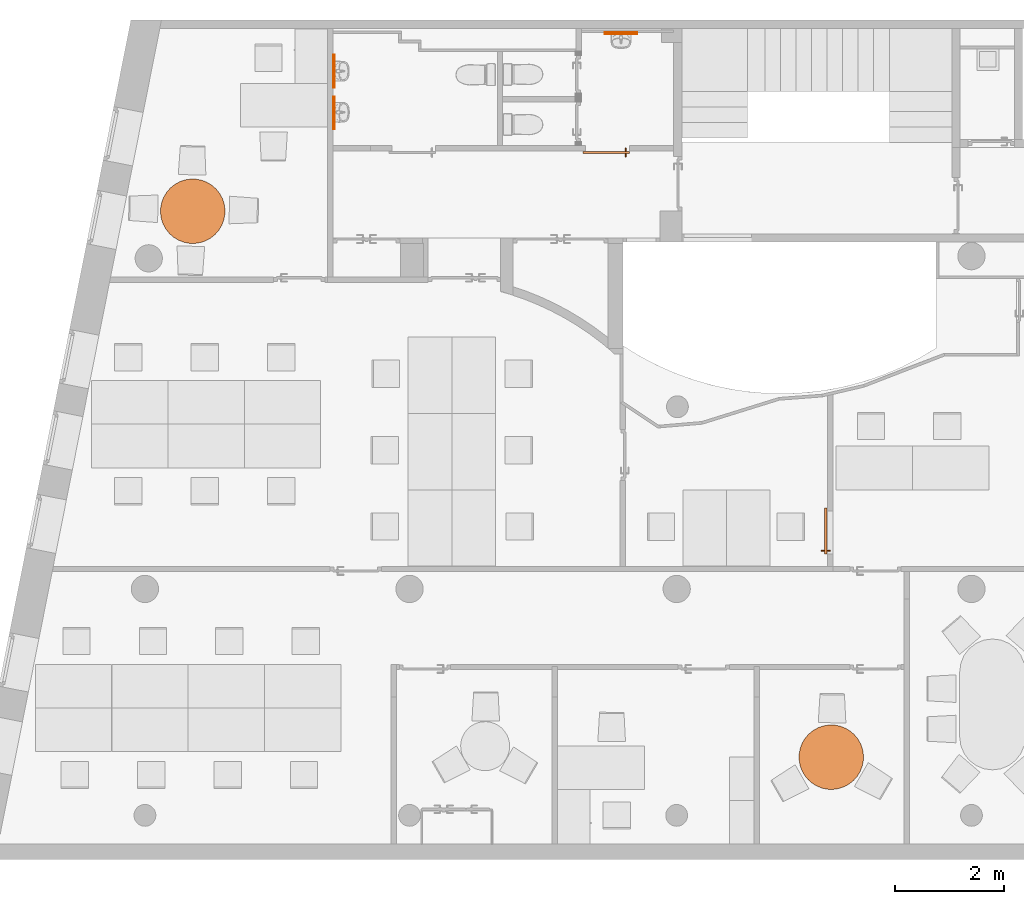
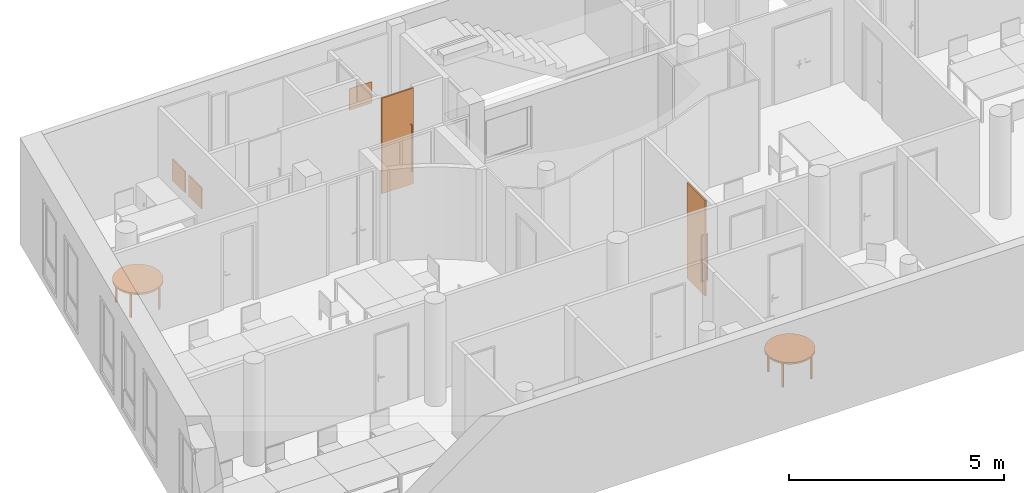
"""IFC4 building model written with IfcOpenShell, lengths in metres."""

from ifc_helpers import new_model, entity, si_unit, converted_unit, derived_unit, frame, origin, origin_with_axes, place, context, subcontext, project, spatial, open_shell, faceted_brep, surface_model, source, transform, mapped, element, save


model = new_model("IFC4")

# Units and contexts
model_context = context("Model", 3, precision=1e-05, world=origin())
body_context = subcontext(model_context, "Body", "Model", "MODEL_VIEW")
ifc_project = project(units=[si_unit("LENGTHUNIT", "METRE"), si_unit("AREAUNIT", "SQUARE_METRE"), si_unit("VOLUMEUNIT", "CUBIC_METRE"), si_unit("MASSUNIT", "GRAM", prefix="KILO"), converted_unit("PLANEANGLEUNIT", "DEGREE", entity("IfcPlaneAngleMeasure", 0.0174532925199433), si_unit("PLANEANGLEUNIT", "RADIAN"), dimensions=[0, 0, 0, 0, 0, 0, 0]), derived_unit("THERMALTRANSMITTANCEUNIT", [(si_unit("POWERUNIT", "WATT"), 1), (si_unit("THERMODYNAMICTEMPERATUREUNIT", "KELVIN"), -1), (si_unit("LENGTHUNIT", "METRE"), -2)]), derived_unit("VOLUMETRICFLOWRATEUNIT", [(si_unit("LENGTHUNIT", "METRE"), 3), (converted_unit("TIMEUNIT", "hour", entity("IfcTimeMeasure", 3600.0), si_unit("TIMEUNIT", "SECOND"), dimensions=[0, 0, 1, 0, 0, 0, 0]), -1), (si_unit("LENGTHUNIT", "METRE"), -1)])], contexts=[model_context])

# Building, storeys
building_placement = place(None, origin())
building = spatial("IfcBuilding", under=ifc_project, at=building_placement, Name="HABITATGE PLURIFAMILIAR", CompositionType="ELEMENT")
storey_1_placement = place(building_placement, frame((0.0, 0.0, 9.26)))
storey_1 = spatial("IfcBuildingStorey", under=building, at=storey_1_placement, Name="PLANTA SEGONA", CompositionType="ELEMENT", Elevation=9.26)
storey_2_placement = place(storey_1_placement, frame((0.0, 0.0, 6.25)))
storey_2 = spatial("IfcBuildingStorey", under=storey_1, at=storey_2_placement, Name="NOU", CompositionType="PARTIAL")

# Proxies
shared_shape_1 = source(origin_with_axes(), body_context, "Body", "SurfaceModel", [
    surface_model("IfcShellBasedSurfaceModel", [(0.6, 0.01, 0.6), (0.6, 0.01, 0.0), (0.0, 0.01, 0.0), (0.0, 0.01, 0.6), (0.0, 0.03, 0.0), (0.0, 0.03, 0.6), (0.6, 0.03, 0.0), (0.6, 0.03, 0.6)], [open_shell([[[0, 1, 2, 3]], [[3, 2, 4, 5]], [[5, 4, 6, 7]], [[7, 6, 1, 0]]], orient=[[False], [False], [False], [False]])]),
    surface_model("IfcShellBasedSurfaceModel", [(0.0, 0.0, 0.0), (0.6, 0.0, 0.0), (0.6, 0.01, 0.0), (0.0, 0.01, 0.0), (0.0, 0.0, 0.6), (0.6, 0.0, 0.6), (0.6, 0.01, 0.6), (0.0, 0.01, 0.6)], [open_shell([[[0, 1, 2, 3]], [[0, 4, 5, 1]], [[1, 5, 6, 2]], [[2, 6, 7, 3]], [[3, 7, 4, 0]]], orient=[[False], [False], [False], [False], [False]])]),
])
proxy_placement = place(storey_2_placement, frame((409.414317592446, 27.9712997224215, -5.45)))
element("IfcBuildingElementProxy", 1, at=proxy_placement, inside=storey_2, Name="Mirall P2", context=body_context, shape_type="MappedRepresentation", body=[
    mapped(shared_shape_1, transform((0.0, 0.0, 0.0), x_axis=(1.0, 0.0, 0.0), y_axis=(0.0, 1.0, 0.0), z_axis=(0.0, 0.0, 1.0), scale=1.0)),
])
for number, where, z_axis, x_axis, name in (
    (2, (404.466984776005, 26.9905155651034, -5.45), (0.0, 0.0, 1.0), (1.22464679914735e-16, 1.0, 0.0), "Mirall P2"),
    (3, (404.468308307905, 26.2238560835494, -5.45), (0.0, 0.0, 1.0), (1.22464679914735e-16, 1.0, 0.0), "Mirall P2"),
):
    element("IfcBuildingElementProxy", number, at=place(storey_2_placement, frame(where, z_axis=z_axis, x_axis=x_axis)), inside=storey_2, Name=name, context=body_context, shape_type="MappedRepresentation", body=[
        mapped(shared_shape_1, transform((0.0, 0.0, 0.0), x_axis=(1.0, 0.0, 0.0), y_axis=(0.0, 1.0, 0.0), z_axis=(0.0, 0.0, 1.0), scale=1.0)),
    ])
shared_shape_2 = source(origin_with_axes(), body_context, "Body", "Brep", [
    faceted_brep([(0.0, 0.11, 2.71), (0.0, 0.11, 0.0), (0.845770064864, 0.11, 0.0), (0.845770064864, 0.11, 2.71), (0.0, 0.0699999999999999, 0.0), (0.0, 0.0700000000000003, 2.71), (0.845770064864, 0.0700000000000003, 2.71), (0.845770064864, 0.0699999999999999, 0.0)], [[[0, 1, 2, 3]], [[4, 5, 6, 7]], [[1, 0, 5, 4]], [[2, 1, 4, 7]], [[3, 2, 7, 6]], [[0, 3, 6, 5]]], orient=[[False], [False], [False], [False], [False], [False]]),
    faceted_brep([(0.08, 0.0700000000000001, 1.7), (0.0779903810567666, 0.0700000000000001, 1.7075), (0.0725, 0.0700000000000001, 1.71299038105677), (0.065, 0.0700000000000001, 1.715), (0.0575, 0.0700000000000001, 1.71299038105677), (0.0520096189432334, 0.0700000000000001, 1.7075), (0.05, 0.0700000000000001, 1.7), (0.0520096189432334, 0.0700000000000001, 1.6925), (0.0575, 0.0700000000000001, 1.68700961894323), (0.065, 0.0700000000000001, 1.685), (0.0725, 0.0700000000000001, 1.68700961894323), (0.0779903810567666, 0.0700000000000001, 1.6925), (0.08, 0.0150000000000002, 1.7), (0.0779903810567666, 0.00750000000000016, 1.7075), (0.0725, 0.00200961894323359, 1.71299038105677), (0.065, 0.0, 1.715), (0.0575, 0.00200961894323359, 1.71299038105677), (0.0520096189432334, 0.00750000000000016, 1.7075), (0.05, 0.0150000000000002, 1.7), (0.0520096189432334, 0.0225000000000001, 1.6925), (0.0575, 0.0279903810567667, 1.68700961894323), (0.065, 0.0300000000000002, 1.685), (0.0725, 0.0279903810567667, 1.68700961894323), (0.0779903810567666, 0.0225000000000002, 1.6925), (0.08, 0.015, 0.4), (0.0779903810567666, 0.00749999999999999, 0.3925), (0.0725, 0.00200961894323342, 0.387009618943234), (0.065, 0.0, 0.385), (0.0575, 0.00200961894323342, 0.387009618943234), (0.0520096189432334, 0.00749999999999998, 0.3925), (0.05, 0.015, 0.4), (0.0520096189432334, 0.0225, 0.4075), (0.0575, 0.0279903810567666, 0.412990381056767), (0.065, 0.03, 0.415), (0.0725, 0.0279903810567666, 0.412990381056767), (0.0779903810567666, 0.0225, 0.4075), (0.0800000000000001, 0.07, 0.4), (0.0779903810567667, 0.07, 0.4075), (0.0725000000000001, 0.07, 0.412990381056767), (0.0650000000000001, 0.07, 0.415), (0.0575000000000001, 0.07, 0.412990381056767), (0.0520096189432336, 0.07, 0.4075), (0.0500000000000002, 0.07, 0.4), (0.0520096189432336, 0.07, 0.3925), (0.0575000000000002, 0.07, 0.387009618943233), (0.0650000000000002, 0.07, 0.385), (0.0725000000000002, 0.07, 0.387009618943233), (0.0779903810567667, 0.07, 0.3925)], [[[0, 1, 2, 3, 4, 5, 6, 7, 8, 9, 10, 11]], [[0, 12, 13, 1]], [[1, 13, 14, 2]], [[2, 14, 15, 3]], [[3, 15, 16, 4]], [[4, 16, 17, 5]], [[5, 17, 18, 6]], [[6, 18, 19, 7]], [[7, 19, 20, 8]], [[8, 20, 21, 9]], [[9, 21, 22, 10]], [[10, 22, 23, 11]], [[11, 23, 12, 0]], [[12, 24, 25, 13]], [[13, 25, 26, 14]], [[14, 26, 27, 15]], [[15, 27, 28, 16]], [[16, 28, 29, 17]], [[17, 29, 30, 18]], [[18, 30, 31, 19]], [[19, 31, 32, 20]], [[20, 32, 33, 21]], [[21, 33, 34, 22]], [[22, 34, 35, 23]], [[23, 35, 24, 12]], [[36, 37, 38, 39, 40, 41, 42, 43, 44, 45, 46, 47]], [[24, 36, 47, 25]], [[25, 47, 46, 26]], [[26, 46, 45, 27]], [[27, 45, 44, 28]], [[28, 44, 43, 29]], [[29, 43, 42, 30]], [[30, 42, 41, 31]], [[31, 41, 40, 32]], [[32, 40, 39, 33]], [[33, 39, 38, 34]], [[34, 38, 37, 35]], [[35, 37, 36, 24]]], orient=[[False], [False], [False], [False], [False], [False], [False], [False], [False], [False], [False], [False], [False], [False], [False], [False], [False], [False], [False], [False], [False], [False], [False], [False], [False], [False], [False], [False], [False], [False], [False], [False], [False], [False], [False], [False], [False], [False]]),
    faceted_brep([(0.08, 0.11, 1.7), (0.0779903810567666, 0.11, 1.6925), (0.0725, 0.11, 1.68700961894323), (0.065, 0.11, 1.685), (0.0575, 0.11, 1.68700961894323), (0.0520096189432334, 0.11, 1.6925), (0.05, 0.11, 1.7), (0.0520096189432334, 0.11, 1.7075), (0.0575, 0.11, 1.71299038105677), (0.065, 0.11, 1.715), (0.0725, 0.11, 1.71299038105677), (0.0779903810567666, 0.11, 1.7075), (0.0779903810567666, 0.1725, 1.7075), (0.08, 0.165, 1.7), (0.0725, 0.177990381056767, 1.71299038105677), (0.065, 0.18, 1.715), (0.0575, 0.177990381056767, 1.71299038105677), (0.0520096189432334, 0.1725, 1.7075), (0.05, 0.165, 1.7), (0.0520096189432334, 0.1575, 1.6925), (0.0575, 0.152009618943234, 1.68700961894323), (0.065, 0.15, 1.685), (0.0725, 0.152009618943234, 1.68700961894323), (0.0779903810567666, 0.1575, 1.6925), (0.0779903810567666, 0.1725, 0.3925), (0.08, 0.165, 0.4), (0.0725, 0.177990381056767, 0.387009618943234), (0.065, 0.18, 0.385), (0.0575, 0.177990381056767, 0.387009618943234), (0.0520096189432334, 0.1725, 0.3925), (0.05, 0.165, 0.4), (0.0520096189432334, 0.1575, 0.4075), (0.0575, 0.152009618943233, 0.412990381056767), (0.065, 0.15, 0.415), (0.0725, 0.152009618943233, 0.412990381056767), (0.0779903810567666, 0.1575, 0.4075), (0.0800000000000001, 0.11, 0.4), (0.0779903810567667, 0.11, 0.3925), (0.0725000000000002, 0.11, 0.387009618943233), (0.0650000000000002, 0.11, 0.385), (0.0575000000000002, 0.11, 0.387009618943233), (0.0520096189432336, 0.11, 0.3925), (0.0500000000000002, 0.11, 0.4), (0.0520096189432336, 0.11, 0.4075), (0.0575000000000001, 0.11, 0.412990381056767), (0.0650000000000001, 0.11, 0.415), (0.0725000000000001, 0.11, 0.412990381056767), (0.0779903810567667, 0.11, 0.4075)], [[[0, 1, 2, 3, 4, 5, 6, 7, 8, 9, 10, 11]], [[0, 11, 12, 13]], [[11, 10, 14, 12]], [[10, 9, 15, 14]], [[9, 8, 16, 15]], [[8, 7, 17, 16]], [[7, 6, 18, 17]], [[6, 5, 19, 18]], [[5, 4, 20, 19]], [[4, 3, 21, 20]], [[3, 2, 22, 21]], [[2, 1, 23, 22]], [[1, 0, 13, 23]], [[13, 12, 24, 25]], [[12, 14, 26, 24]], [[14, 15, 27, 26]], [[15, 16, 28, 27]], [[16, 17, 29, 28]], [[17, 18, 30, 29]], [[18, 19, 31, 30]], [[19, 20, 32, 31]], [[20, 21, 33, 32]], [[21, 22, 34, 33]], [[22, 23, 35, 34]], [[23, 13, 25, 35]], [[36, 37, 38, 39, 40, 41, 42, 43, 44, 45, 46, 47]], [[25, 24, 37, 36]], [[24, 26, 38, 37]], [[26, 27, 39, 38]], [[27, 28, 40, 39]], [[28, 29, 41, 40]], [[29, 30, 42, 41]], [[30, 31, 43, 42]], [[31, 32, 44, 43]], [[32, 33, 45, 44]], [[33, 34, 46, 45]], [[34, 35, 47, 46]], [[35, 25, 36, 47]]], orient=[[False], [False], [False], [False], [False], [False], [False], [False], [False], [False], [False], [False], [False], [False], [False], [False], [False], [False], [False], [False], [False], [False], [False], [False], [False], [False], [False], [False], [False], [False], [False], [False], [False], [False], [False], [False], [False], [False]]),
])
for number, where, z_axis, x_axis, name in (
    (4, (409.865355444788, 25.8894598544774, -6.35), (0.0, 0.0, 1.0), (-0.999999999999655, 1.22464679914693e-16, 0.0), "Porta P2"),
    (5, (413.557122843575, 18.4367694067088, -6.35), (0.0, 0.0, 1.0), (-2.46519032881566e-32, 0.999999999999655, 0.0), "Porta P2"),
):
    element("IfcBuildingElementProxy", number, at=place(storey_2_placement, frame(where, z_axis=z_axis, x_axis=x_axis)), inside=storey_2, Name=name, context=body_context, shape_type="MappedRepresentation", body=[
        mapped(shared_shape_2, transform((0.0, 0.0, 0.0), x_axis=(1.0, 0.0, 0.0), y_axis=(0.0, 1.0, 0.0), z_axis=(0.0, 0.0, 1.0), scale=0.999999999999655)),
    ])
shared_shape_3 = source(origin_with_axes(), body_context, "Body", "Brep", [
    faceted_brep([(1.18242155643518, 0.591210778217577, 0.7), (1.17343973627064, 0.693873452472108, 0.7), (1.14676718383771, 0.793416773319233, 0.7), (1.10321433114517, 0.886816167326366, 0.7), (1.04410450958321, 0.971233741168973, 0.7), (0.971233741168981, 1.0441045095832, 0.7), (0.886816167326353, 1.10321433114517, 0.7), (0.793416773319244, 1.14676718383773, 0.7), (0.693873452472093, 1.17343973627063, 0.7), (0.591210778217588, 1.18242155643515, 0.7), (0.488548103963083, 1.17343973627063, 0.7), (0.389004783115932, 1.14676718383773, 0.7), (0.295605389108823, 1.10321433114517, 0.7), (0.211187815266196, 1.0441045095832, 0.7), (0.138317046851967, 0.971233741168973, 0.7), (0.0792072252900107, 0.886816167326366, 0.7), (0.0356543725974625, 0.793416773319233, 0.7), (0.00898182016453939, 0.693873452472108, 0.7), (0.0, 0.591210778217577, 0.7), (0.00898182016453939, 0.488548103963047, 0.7), (0.0356543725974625, 0.389004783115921, 0.7), (0.0792072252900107, 0.295605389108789, 0.7), (0.138317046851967, 0.211187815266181, 0.7), (0.211187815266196, 0.138317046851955, 0.7), (0.295605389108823, 0.079207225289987, 0.7), (0.389004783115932, 0.0356543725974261, 0.7), (0.488548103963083, 0.00898182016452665, 0.7), (0.591210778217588, 0.0, 0.7), (0.693873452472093, 0.00898182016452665, 0.7), (0.793416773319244, 0.0356543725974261, 0.7), (0.886816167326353, 0.079207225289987, 0.7), (0.971233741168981, 0.138317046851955, 0.7), (1.04410450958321, 0.211187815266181, 0.7), (1.10321433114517, 0.295605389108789, 0.7), (1.14676718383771, 0.389004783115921, 0.7), (1.17343973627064, 0.488548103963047, 0.7), (1.18242155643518, 0.591210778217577, 0.75), (1.17343973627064, 0.488548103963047, 0.75), (1.14676718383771, 0.389004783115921, 0.75), (1.10321433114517, 0.295605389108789, 0.75), (1.04410450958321, 0.211187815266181, 0.75), (0.971233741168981, 0.138317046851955, 0.75), (0.886816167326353, 0.079207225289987, 0.75), (0.793416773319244, 0.0356543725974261, 0.75), (0.693873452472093, 0.00898182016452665, 0.75), (0.591210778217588, 0.0, 0.75), (0.488548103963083, 0.00898182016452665, 0.75), (0.389004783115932, 0.0356543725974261, 0.75), (0.295605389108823, 0.079207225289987, 0.75), (0.211187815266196, 0.138317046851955, 0.75), (0.138317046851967, 0.211187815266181, 0.75), (0.0792072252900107, 0.295605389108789, 0.75), (0.0356543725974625, 0.389004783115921, 0.75), (0.00898182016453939, 0.488548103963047, 0.75), (0.0, 0.591210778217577, 0.75), (0.00898182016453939, 0.693873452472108, 0.75), (0.0356543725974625, 0.793416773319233, 0.75), (0.0792072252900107, 0.886816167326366, 0.75), (0.138317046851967, 0.971233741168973, 0.75), (0.211187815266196, 1.0441045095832, 0.75), (0.295605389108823, 1.10321433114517, 0.75), (0.389004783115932, 1.14676718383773, 0.75), (0.488548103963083, 1.17343973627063, 0.75), (0.591210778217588, 1.18242155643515, 0.75), (0.693873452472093, 1.17343973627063, 0.75), (0.793416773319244, 1.14676718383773, 0.75), (0.886816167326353, 1.10321433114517, 0.75), (0.971233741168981, 1.0441045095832, 0.75), (1.04410450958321, 0.971233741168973, 0.75), (1.10321433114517, 0.886816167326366, 0.75), (1.14676718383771, 0.793416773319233, 0.75), (1.17343973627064, 0.693873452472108, 0.75)], [[[0, 1, 2, 3, 4, 5, 6, 7, 8, 9, 10, 11, 12, 13, 14, 15, 16, 17, 18, 19, 20, 21, 22, 23, 24, 25, 26, 27, 28, 29, 30, 31, 32, 33, 34, 35]], [[36, 37, 38, 39, 40, 41, 42, 43, 44, 45, 46, 47, 48, 49, 50, 51, 52, 53, 54, 55, 56, 57, 58, 59, 60, 61, 62, 63, 64, 65, 66, 67, 68, 69, 70, 71]], [[1, 0, 36, 71]], [[2, 1, 71, 70]], [[3, 2, 70, 69]], [[4, 3, 69, 68]], [[5, 4, 68, 67]], [[6, 5, 67, 66]], [[7, 6, 66, 65]], [[8, 7, 65, 64]], [[9, 8, 64, 63]], [[10, 9, 63, 62]], [[11, 10, 62, 61]], [[12, 11, 61, 60]], [[13, 12, 60, 59]], [[14, 13, 59, 58]], [[15, 14, 58, 57]], [[16, 15, 57, 56]], [[17, 16, 56, 55]], [[18, 17, 55, 54]], [[19, 18, 54, 53]], [[20, 19, 53, 52]], [[21, 20, 52, 51]], [[22, 21, 51, 50]], [[23, 22, 50, 49]], [[24, 23, 49, 48]], [[25, 24, 48, 47]], [[26, 25, 47, 46]], [[27, 26, 46, 45]], [[28, 27, 45, 44]], [[29, 28, 44, 43]], [[30, 29, 43, 42]], [[31, 30, 42, 41]], [[32, 31, 41, 40]], [[33, 32, 40, 39]], [[34, 33, 39, 38]], [[35, 34, 38, 37]], [[0, 35, 37, 36]]], orient=[[False], [False], [False], [False], [False], [False], [False], [False], [False], [False], [False], [False], [False], [False], [False], [False], [False], [False], [False], [False], [False], [False], [False], [False], [False], [False], [False], [False], [False], [False], [False], [False], [False], [False], [False], [False], [False], [False]]),
    faceted_brep([(0.577083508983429, 1.13441393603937, 0.0), (0.577083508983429, 1.08441393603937, 0.0), (0.627083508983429, 1.08441393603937, 0.0), (0.627083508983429, 1.13441393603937, 0.0), (0.577083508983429, 1.08441393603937, 0.7), (0.577083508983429, 1.13441393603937, 0.7), (0.627083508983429, 1.13441393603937, 0.7), (0.627083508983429, 1.08441393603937, 0.7)], [[[0, 1, 2, 3]], [[4, 5, 6, 7]], [[1, 0, 5, 4]], [[2, 1, 4, 7]], [[3, 2, 7, 6]], [[0, 3, 6, 5]]], orient=[[False], [False], [False], [False], [False], [False]]),
    faceted_brep([(0.0475495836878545, 0.616210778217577, 0.0), (0.0475495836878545, 0.566210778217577, 0.0), (0.0975495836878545, 0.566210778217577, 0.0), (0.0975495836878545, 0.616210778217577, 0.0), (0.0475495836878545, 0.566210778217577, 0.7), (0.0475495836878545, 0.616210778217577, 0.7), (0.0975495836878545, 0.616210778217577, 0.7), (0.0975495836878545, 0.566210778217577, 0.7)], [[[0, 1, 2, 3]], [[4, 5, 6, 7]], [[1, 0, 5, 4]], [[2, 1, 4, 7]], [[3, 2, 7, 6]], [[0, 3, 6, 5]]], orient=[[False], [False], [False], [False], [False], [False]]),
    faceted_brep([(1.08451421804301, 0.595616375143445, 0.0), (1.08451421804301, 0.545616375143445, 0.0), (1.13451421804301, 0.545616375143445, 0.0), (1.13451421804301, 0.595616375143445, 0.0), (1.08451421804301, 0.545616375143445, 0.7), (1.08451421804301, 0.595616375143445, 0.7), (1.13451421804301, 0.595616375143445, 0.7), (1.13451421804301, 0.545616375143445, 0.7)], [[[0, 1, 2, 3]], [[4, 5, 6, 7]], [[1, 0, 5, 4]], [[2, 1, 4, 7]], [[3, 2, 7, 6]], [[0, 3, 6, 5]]], orient=[[False], [False], [False], [False], [False], [False]]),
    faceted_brep([(0.577083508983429, 0.0976491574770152, 0.0), (0.577083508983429, 0.0476491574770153, 0.0), (0.627083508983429, 0.0476491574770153, 0.0), (0.627083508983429, 0.0976491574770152, 0.0), (0.577083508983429, 0.0476491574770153, 0.7), (0.577083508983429, 0.0976491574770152, 0.7), (0.627083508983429, 0.0976491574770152, 0.7), (0.627083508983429, 0.0476491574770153, 0.7)], [[[0, 1, 2, 3]], [[4, 5, 6, 7]], [[1, 0, 5, 4]], [[2, 1, 4, 7]], [[3, 2, 7, 6]], [[0, 3, 6, 5]]], orient=[[False], [False], [False], [False], [False], [False]]),
])
for number, where, z_axis, x_axis, name in (
    (6, (401.877692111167, 25.5590133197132, -6.3499999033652), (0.0, 0.0, 1.0), (-0.719093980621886, -0.694912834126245, 0.0), "Taula redona 1.2m"),
    (7, (413.581362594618, 15.5517815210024, -6.3499999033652), (0.0, 0.0, 1.0), (-0.719093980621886, -0.694912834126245, 0.0), "Taula redona 1.2m"),
):
    element("IfcBuildingElementProxy", number, at=place(storey_2_placement, frame(where, z_axis=z_axis, x_axis=x_axis)), inside=storey_2, Name=name, context=body_context, shape_type="MappedRepresentation", body=[
        mapped(shared_shape_3, transform((0.0, 0.0, 0.0), x_axis=(1.0, 0.0, 0.0), y_axis=(0.0, 1.0, 0.0), z_axis=(0.0, 0.0, 1.0), scale=1.0)),
    ])

save(model, "model.ifc")
